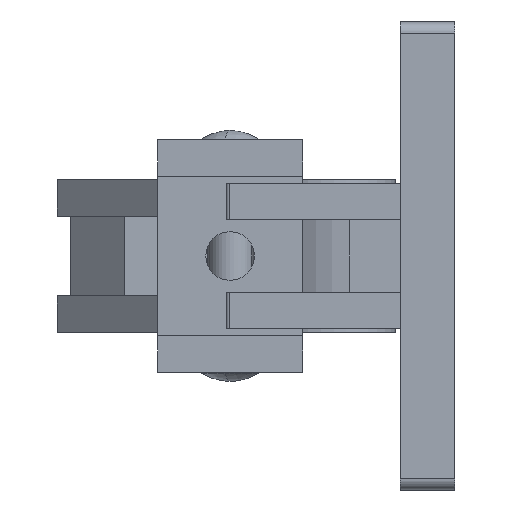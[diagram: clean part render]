
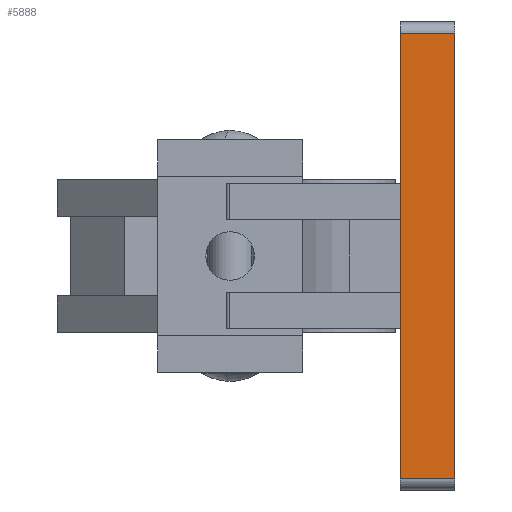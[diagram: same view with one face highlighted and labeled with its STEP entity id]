
A CAD part, left-side view. The second image highlights one B-rep face of the part: STEP entity #5888.
In plain terms, the highlighted planar face has unit normal (-1, 0, 0) as drawn and (0, 0, -1) by its records, which use the part's own axes.
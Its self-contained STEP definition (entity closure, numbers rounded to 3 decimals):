
#786 = CARTESIAN_POINT ( 'NONE',  ( -39., 0., -19. ) ) ;
#950 = EDGE_CURVE ( 'NONE', #4794, #4787, #2676, .T. ) ;
#962 = EDGE_CURVE ( 'NONE', #6033, #1121, #2717, .T. ) ;
#971 = EDGE_CURVE ( 'NONE', #4787, #1121, #2748, .T. ) ;
#977 = EDGE_CURVE ( 'NONE', #4794, #6033, #2766, .T. ) ;
#1121 = VERTEX_POINT ( 'NONE', #786 ) ;
#2676 = LINE ( 'NONE', #2677, #5643 ) ;
#2677 = CARTESIAN_POINT ( 'NONE',  ( 39., 9.525, -19. ) ) ;
#2687 = DIRECTION ( 'NONE',  ( -1., 0., 0. ) ) ;
#2713 = CARTESIAN_POINT ( 'NONE',  ( 39., 0., -19. ) ) ;
#2717 = LINE ( 'NONE', #2713, #5602 ) ;
#2722 = DIRECTION ( 'NONE',  ( -1., 0., 0. ) ) ;
#2748 = LINE ( 'NONE', #2749, #5428 ) ;
#2749 = CARTESIAN_POINT ( 'NONE',  ( -39., 9.525, -19. ) ) ;
#2750 = DIRECTION ( 'NONE',  ( 0., -1., 0. ) ) ;
#2766 = LINE ( 'NONE', #2767, #5422 ) ;
#2767 = CARTESIAN_POINT ( 'NONE',  ( 39., 9.525, -19. ) ) ;
#2768 = DIRECTION ( 'NONE',  ( 0., -1., 0. ) ) ;
#3149 = AXIS2_PLACEMENT_3D ( 'NONE', #5257, #5268, #5269 ) ;
#3467 = ORIENTED_EDGE ( 'NONE', *, *, #977, .T. ) ;
#3468 = ORIENTED_EDGE ( 'NONE', *, *, #950, .F. ) ;
#3469 = ORIENTED_EDGE ( 'NONE', *, *, #971, .F. ) ;
#3470 = ORIENTED_EDGE ( 'NONE', *, *, #962, .T. ) ;
#3674 = EDGE_LOOP ( 'NONE', ( #3470, #3469, #3468, #3467 ) ) ;
#4787 = VERTEX_POINT ( 'NONE', #4935 ) ;
#4794 = VERTEX_POINT ( 'NONE', #4942 ) ;
#4935 = CARTESIAN_POINT ( 'NONE',  ( -39., 9.525, -19. ) ) ;
#4942 = CARTESIAN_POINT ( 'NONE',  ( 39., 9.525, -19. ) ) ;
#5257 = CARTESIAN_POINT ( 'NONE',  ( 39., 9.525, -19. ) ) ;
#5264 = FACE_OUTER_BOUND ( 'NONE', #3674, .T. ) ;
#5265 = PLANE ( 'NONE',  #3149 ) ;
#5268 = DIRECTION ( 'NONE',  ( 0., 0., 1. ) ) ;
#5269 = DIRECTION ( 'NONE',  ( 1., 0., 0. ) ) ;
#5318 = CARTESIAN_POINT ( 'NONE',  ( 39., 0., -19. ) ) ;
#5422 = VECTOR ( 'NONE', #2768, 1000. ) ;
#5428 = VECTOR ( 'NONE', #2750, 1000. ) ;
#5602 = VECTOR ( 'NONE', #2722, 1000. ) ;
#5643 = VECTOR ( 'NONE', #2687, 1000. ) ;
#5888 = ADVANCED_FACE ( 'NONE', ( #5264 ), #5265, .F. ) ;
#6033 = VERTEX_POINT ( 'NONE', #5318 ) ;
